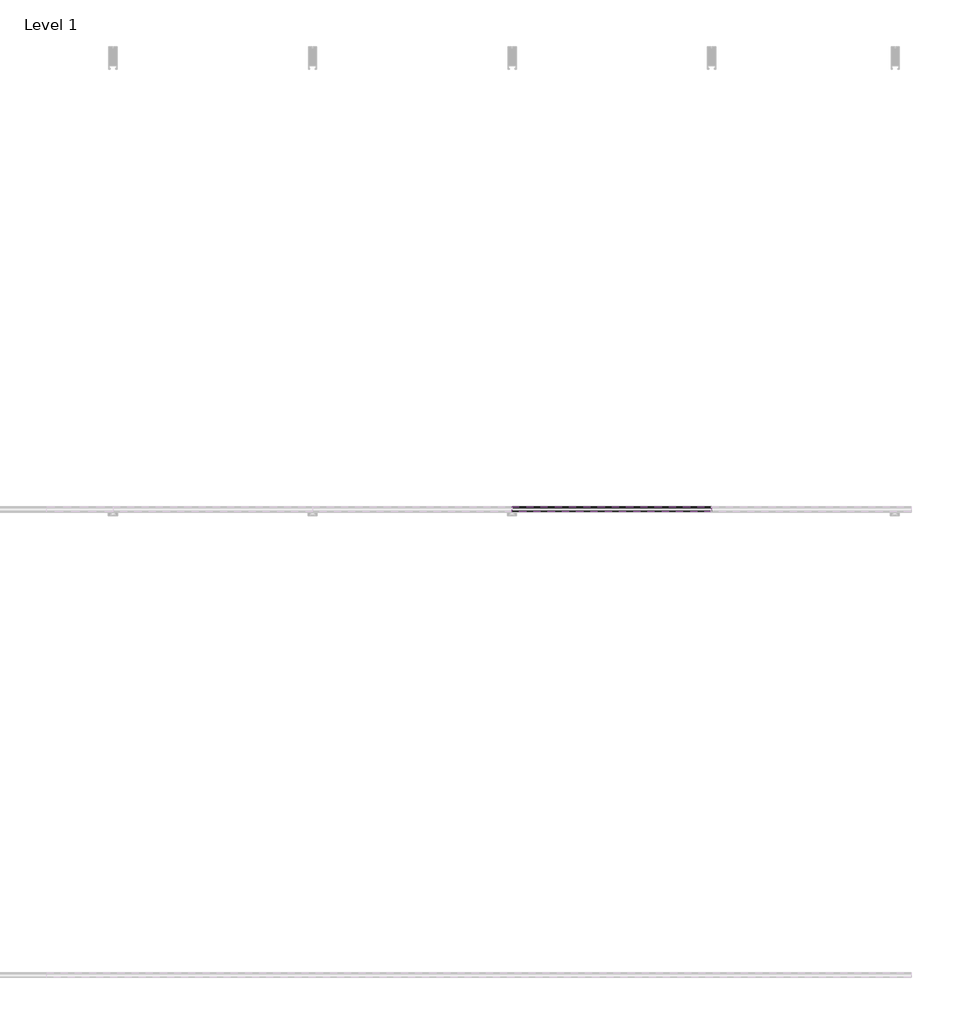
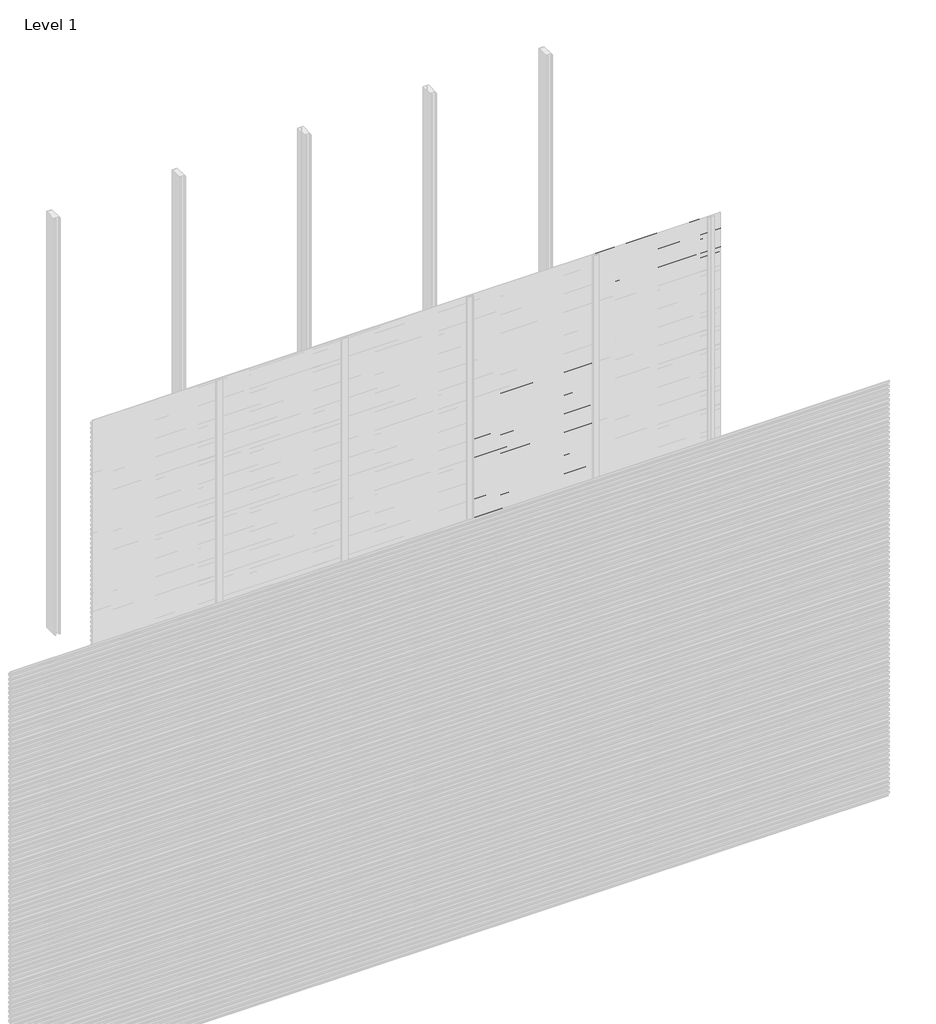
# One storey, part 58 of 96: 77 proxies.
"""IFC4 building model written with IfcOpenShell, lengths in millimetres."""

from ifc_helpers import new_model, si_unit, frame, origin, place, context, project, spatial, polyline, outline, extrude, element, save

model = new_model("IFC4")

# Units and contexts
model_context = context("Model", 3, world=origin())
ifc_project = project(units=[si_unit("LENGTHUNIT", "METRE", prefix="MILLI")], contexts=[model_context])

# Site, building, storey
site = spatial("IfcSite", under=ifc_project)
building = spatial("IfcBuilding", under=site)
storey = spatial("IfcBuildingStorey", under=building, Name="Level 1", Elevation=0.0)

# Proxies
placement = place(None, origin())
element("IfcBuildingElementProxy", 1, Name="Wall Sweeps", at=placement, inside=storey, context=model_context, shape_type="SweptSolid", body=[
    extrude(outline(polyline([(-23977.6, 2205.8655033), (-23977.6, 2191.5779188), (-23982.4114965, 2188.8), (-23982.4114965, 2190.0701706), (-23978.85, 2192.1264016), (-23978.85, 2205.1437382), (-23998.0, 2216.2000799), (-23998.0, 2231.1), (-23996.75, 2231.1), (-23996.75, 2216.9217609), (-23977.6, 2205.8655033)])), frame((4285.7142857, 0.0, 0.0), z_axis=(1.0, 0.0, 0.0), x_axis=(0.0, 1.0, 0.0)), (0.0, 0.0, 1.0), 857.1428571),
])
element("IfcBuildingElementProxy", 2, Name="Wall Sweeps", at=placement, inside=storey, context=model_context, shape_type="SweptSolid", body=[
    extrude(outline(polyline([(-23977.6, 2172.5655033), (-23977.6, 2158.2779188), (-23982.4114965, 2155.5), (-23982.4114965, 2156.7701706), (-23978.85, 2158.8264016), (-23978.85, 2171.8437382), (-23998.0, 2182.9000799), (-23998.0, 2197.8), (-23996.75, 2197.8), (-23996.75, 2183.6217609), (-23977.6, 2172.5655033)])), frame((4285.7142857, 0.0, 0.0), z_axis=(1.0, 0.0, 0.0), x_axis=(0.0, 1.0, 0.0)), (0.0, 0.0, 1.0), 857.1428571),
])
element("IfcBuildingElementProxy", 3, Name="Wall Sweeps", at=placement, inside=storey, context=model_context, shape_type="SweptSolid", body=[
    extrude(outline(polyline([(-23977.6, 2139.2655033), (-23977.6, 2124.9779188), (-23982.4114965, 2122.2), (-23982.4114965, 2123.4701706), (-23978.85, 2125.5264016), (-23978.85, 2138.5437382), (-23998.0, 2149.6000799), (-23998.0, 2164.5), (-23996.75, 2164.5), (-23996.75, 2150.3217609), (-23977.6, 2139.2655033)])), frame((4285.7142857, 0.0, 0.0), z_axis=(1.0, 0.0, 0.0), x_axis=(0.0, 1.0, 0.0)), (0.0, 0.0, 1.0), 857.1428571),
])
element("IfcBuildingElementProxy", 4, Name="Wall Sweeps", at=placement, inside=storey, context=model_context, shape_type="SweptSolid", body=[
    extrude(outline(polyline([(-23977.6, 2105.9655033), (-23977.6, 2091.6779188), (-23982.4114965, 2088.9), (-23982.4114965, 2090.1701706), (-23978.85, 2092.2264016), (-23978.85, 2105.2437382), (-23998.0, 2116.3000799), (-23998.0, 2131.2), (-23996.75, 2131.2), (-23996.75, 2117.0217609), (-23977.6, 2105.9655033)])), frame((4285.7142857, 0.0, 0.0), z_axis=(1.0, 0.0, 0.0), x_axis=(0.0, 1.0, 0.0)), (0.0, 0.0, 1.0), 857.1428571),
])
element("IfcBuildingElementProxy", 5, Name="Wall Sweeps", at=placement, inside=storey, context=model_context, shape_type="SweptSolid", body=[
    extrude(outline(polyline([(-23977.6, 2072.6655033), (-23977.6, 2058.3779188), (-23982.4114965, 2055.6), (-23982.4114965, 2056.8701706), (-23978.85, 2058.9264016), (-23978.85, 2071.9437382), (-23998.0, 2083.0000799), (-23998.0, 2097.9), (-23996.75, 2097.9), (-23996.75, 2083.7217609), (-23977.6, 2072.6655033)])), frame((4285.7142857, 0.0, 0.0), z_axis=(1.0, 0.0, 0.0), x_axis=(0.0, 1.0, 0.0)), (0.0, 0.0, 1.0), 857.1428571),
])
element("IfcBuildingElementProxy", 6, Name="Wall Sweeps", at=placement, inside=storey, context=model_context, shape_type="SweptSolid", body=[
    extrude(outline(polyline([(-23977.6, 2039.3655033), (-23977.6, 2025.0779188), (-23982.4114965, 2022.3), (-23982.4114965, 2023.5701706), (-23978.85, 2025.6264016), (-23978.85, 2038.6437382), (-23998.0, 2049.7000799), (-23998.0, 2064.6), (-23996.75, 2064.6), (-23996.75, 2050.4217609), (-23977.6, 2039.3655033)])), frame((4285.7142857, 0.0, 0.0), z_axis=(1.0, 0.0, 0.0), x_axis=(0.0, 1.0, 0.0)), (0.0, 0.0, 1.0), 857.1428571),
])
element("IfcBuildingElementProxy", 7, Name="Wall Sweeps", at=placement, inside=storey, context=model_context, shape_type="SweptSolid", body=[
    extrude(outline(polyline([(-23977.6, 2006.0655033), (-23977.6, 1991.7779188), (-23982.4114965, 1989.0), (-23982.4114965, 1990.2701706), (-23978.85, 1992.3264016), (-23978.85, 2005.3437382), (-23998.0, 2016.4000799), (-23998.0, 2031.3), (-23996.75, 2031.3), (-23996.75, 2017.1217609), (-23977.6, 2006.0655033)])), frame((4285.7142857, 0.0, 0.0), z_axis=(1.0, 0.0, 0.0), x_axis=(0.0, 1.0, 0.0)), (0.0, 0.0, 1.0), 857.1428571),
])
element("IfcBuildingElementProxy", 8, Name="Wall Sweeps", at=placement, inside=storey, context=model_context, shape_type="SweptSolid", body=[
    extrude(outline(polyline([(-23977.6, 1972.7655033), (-23977.6, 1958.4779188), (-23982.4114965, 1955.7), (-23982.4114965, 1956.9701706), (-23978.85, 1959.0264016), (-23978.85, 1972.0437382), (-23998.0, 1983.1000799), (-23998.0, 1998.0), (-23996.75, 1998.0), (-23996.75, 1983.8217609), (-23977.6, 1972.7655033)])), frame((4285.7142857, 0.0, 0.0), z_axis=(1.0, 0.0, 0.0), x_axis=(0.0, 1.0, 0.0)), (0.0, 0.0, 1.0), 857.1428571),
])
element("IfcBuildingElementProxy", 9, Name="Wall Sweeps", at=placement, inside=storey, context=model_context, shape_type="SweptSolid", body=[
    extrude(outline(polyline([(-23977.6, 1939.4655033), (-23977.6, 1925.1779188), (-23982.4114965, 1922.4), (-23982.4114965, 1923.6701706), (-23978.85, 1925.7264016), (-23978.85, 1938.7437382), (-23998.0, 1949.8000799), (-23998.0, 1964.7), (-23996.75, 1964.7), (-23996.75, 1950.5217609), (-23977.6, 1939.4655033)])), frame((4285.7142857, 0.0, 0.0), z_axis=(1.0, 0.0, 0.0), x_axis=(0.0, 1.0, 0.0)), (0.0, 0.0, 1.0), 857.1428571),
])
element("IfcBuildingElementProxy", 10, Name="Wall Sweeps", at=placement, inside=storey, context=model_context, shape_type="SweptSolid", body=[
    extrude(outline(polyline([(-23977.6, 1906.1655033), (-23977.6, 1891.8779188), (-23982.4114965, 1889.1), (-23982.4114965, 1890.3701706), (-23978.85, 1892.4264016), (-23978.85, 1905.4437382), (-23998.0, 1916.5000799), (-23998.0, 1931.4), (-23996.75, 1931.4), (-23996.75, 1917.2217609), (-23977.6, 1906.1655033)])), frame((4285.7142857, 0.0, 0.0), z_axis=(1.0, 0.0, 0.0), x_axis=(0.0, 1.0, 0.0)), (0.0, 0.0, 1.0), 857.1428571),
])
element("IfcBuildingElementProxy", 11, Name="Wall Sweeps", at=placement, inside=storey, context=model_context, shape_type="SweptSolid", body=[
    extrude(outline(polyline([(-23977.6, 1872.8655033), (-23977.6, 1858.5779188), (-23982.4114965, 1855.8), (-23982.4114965, 1857.0701706), (-23978.85, 1859.1264016), (-23978.85, 1872.1437382), (-23998.0, 1883.2000799), (-23998.0, 1898.1), (-23996.75, 1898.1), (-23996.75, 1883.9217609), (-23977.6, 1872.8655033)])), frame((4285.7142857, 0.0, 0.0), z_axis=(1.0, 0.0, 0.0), x_axis=(0.0, 1.0, 0.0)), (0.0, 0.0, 1.0), 857.1428571),
])
element("IfcBuildingElementProxy", 12, Name="Wall Sweeps", at=placement, inside=storey, context=model_context, shape_type="SweptSolid", body=[
    extrude(outline(polyline([(-23977.6, 1839.5655033), (-23977.6, 1825.2779188), (-23982.4114965, 1822.5), (-23982.4114965, 1823.7701706), (-23978.85, 1825.8264016), (-23978.85, 1838.8437382), (-23998.0, 1849.9000799), (-23998.0, 1864.8), (-23996.75, 1864.8), (-23996.75, 1850.6217609), (-23977.6, 1839.5655033)])), frame((4285.7142857, 0.0, 0.0), z_axis=(1.0, 0.0, 0.0), x_axis=(0.0, 1.0, 0.0)), (0.0, 0.0, 1.0), 857.1428571),
])
element("IfcBuildingElementProxy", 13, Name="Wall Sweeps", at=placement, inside=storey, context=model_context, shape_type="SweptSolid", body=[
    extrude(outline(polyline([(-23977.6, 1806.2655033), (-23977.6, 1791.9779188), (-23982.4114965, 1789.2), (-23982.4114965, 1790.4701706), (-23978.85, 1792.5264016), (-23978.85, 1805.5437382), (-23998.0, 1816.6000799), (-23998.0, 1831.5), (-23996.75, 1831.5), (-23996.75, 1817.3217609), (-23977.6, 1806.2655033)])), frame((4285.7142857, 0.0, 0.0), z_axis=(1.0, 0.0, 0.0), x_axis=(0.0, 1.0, 0.0)), (0.0, 0.0, 1.0), 857.1428571),
])
element("IfcBuildingElementProxy", 14, Name="Wall Sweeps", at=placement, inside=storey, context=model_context, shape_type="SweptSolid", body=[
    extrude(outline(polyline([(-23977.6, 1772.9655033), (-23977.6, 1758.6779188), (-23982.4114965, 1755.9), (-23982.4114965, 1757.1701706), (-23978.85, 1759.2264016), (-23978.85, 1772.2437382), (-23998.0, 1783.3000799), (-23998.0, 1798.2), (-23996.75, 1798.2), (-23996.75, 1784.0217609), (-23977.6, 1772.9655033)])), frame((4285.7142857, 0.0, 0.0), z_axis=(1.0, 0.0, 0.0), x_axis=(0.0, 1.0, 0.0)), (0.0, 0.0, 1.0), 857.1428571),
])
element("IfcBuildingElementProxy", 15, Name="Wall Sweeps", at=placement, inside=storey, context=model_context, shape_type="SweptSolid", body=[
    extrude(outline(polyline([(-23977.6, 1739.6655033), (-23977.6, 1725.3779188), (-23982.4114965, 1722.6), (-23982.4114965, 1723.8701706), (-23978.85, 1725.9264016), (-23978.85, 1738.9437382), (-23998.0, 1750.0000799), (-23998.0, 1764.9), (-23996.75, 1764.9), (-23996.75, 1750.7217609), (-23977.6, 1739.6655033)])), frame((4285.7142857, 0.0, 0.0), z_axis=(1.0, 0.0, 0.0), x_axis=(0.0, 1.0, 0.0)), (0.0, 0.0, 1.0), 857.1428571),
])
element("IfcBuildingElementProxy", 16, Name="Wall Sweeps", at=placement, inside=storey, context=model_context, shape_type="SweptSolid", body=[
    extrude(outline(polyline([(-23977.6, 1706.3655033), (-23977.6, 1692.0779188), (-23982.4114965, 1689.3), (-23982.4114965, 1690.5701706), (-23978.85, 1692.6264016), (-23978.85, 1705.6437382), (-23998.0, 1716.7000799), (-23998.0, 1731.6), (-23996.75, 1731.6), (-23996.75, 1717.4217609), (-23977.6, 1706.3655033)])), frame((4285.7142857, 0.0, 0.0), z_axis=(1.0, 0.0, 0.0), x_axis=(0.0, 1.0, 0.0)), (0.0, 0.0, 1.0), 857.1428571),
])
element("IfcBuildingElementProxy", 17, Name="Wall Sweeps", at=placement, inside=storey, context=model_context, shape_type="SweptSolid", body=[
    extrude(outline(polyline([(-23977.6, 1673.0655033), (-23977.6, 1658.7779188), (-23982.4114965, 1656.0), (-23982.4114965, 1657.2701706), (-23978.85, 1659.3264016), (-23978.85, 1672.3437382), (-23998.0, 1683.4000799), (-23998.0, 1698.3), (-23996.75, 1698.3), (-23996.75, 1684.1217609), (-23977.6, 1673.0655033)])), frame((4285.7142857, 0.0, 0.0), z_axis=(1.0, 0.0, 0.0), x_axis=(0.0, 1.0, 0.0)), (0.0, 0.0, 1.0), 857.1428571),
])
element("IfcBuildingElementProxy", 18, Name="Wall Sweeps", at=placement, inside=storey, context=model_context, shape_type="SweptSolid", body=[
    extrude(outline(polyline([(-23977.6, 1639.7655033), (-23977.6, 1625.4779188), (-23982.4114965, 1622.7), (-23982.4114965, 1623.9701706), (-23978.85, 1626.0264016), (-23978.85, 1639.0437382), (-23998.0, 1650.1000799), (-23998.0, 1665.0), (-23996.75, 1665.0), (-23996.75, 1650.8217609), (-23977.6, 1639.7655033)])), frame((4285.7142857, 0.0, 0.0), z_axis=(1.0, 0.0, 0.0), x_axis=(0.0, 1.0, 0.0)), (0.0, 0.0, 1.0), 857.1428571),
])
element("IfcBuildingElementProxy", 19, Name="Wall Sweeps", at=placement, inside=storey, context=model_context, shape_type="SweptSolid", body=[
    extrude(outline(polyline([(-23977.6, 1606.4655033), (-23977.6, 1592.1779188), (-23982.4114965, 1589.4), (-23982.4114965, 1590.6701706), (-23978.85, 1592.7264016), (-23978.85, 1605.7437382), (-23998.0, 1616.8000799), (-23998.0, 1631.7), (-23996.75, 1631.7), (-23996.75, 1617.5217609), (-23977.6, 1606.4655033)])), frame((4285.7142857, 0.0, 0.0), z_axis=(1.0, 0.0, 0.0), x_axis=(0.0, 1.0, 0.0)), (0.0, 0.0, 1.0), 857.1428571),
])
element("IfcBuildingElementProxy", 20, Name="Wall Sweeps", at=placement, inside=storey, context=model_context, shape_type="SweptSolid", body=[
    extrude(outline(polyline([(-23977.6, 1573.1655033), (-23977.6, 1558.8779188), (-23982.4114965, 1556.1), (-23982.4114965, 1557.3701706), (-23978.85, 1559.4264016), (-23978.85, 1572.4437382), (-23998.0, 1583.5000799), (-23998.0, 1598.4), (-23996.75, 1598.4), (-23996.75, 1584.2217609), (-23977.6, 1573.1655033)])), frame((4285.7142857, 0.0, 0.0), z_axis=(1.0, 0.0, 0.0), x_axis=(0.0, 1.0, 0.0)), (0.0, 0.0, 1.0), 857.1428571),
])
element("IfcBuildingElementProxy", 21, Name="Wall Sweeps", at=placement, inside=storey, context=model_context, shape_type="SweptSolid", body=[
    extrude(outline(polyline([(-23977.6, 1539.8655033), (-23977.6, 1525.5779188), (-23982.4114965, 1522.8), (-23982.4114965, 1524.0701706), (-23978.85, 1526.1264016), (-23978.85, 1539.1437382), (-23998.0, 1550.2000799), (-23998.0, 1565.1), (-23996.75, 1565.1), (-23996.75, 1550.9217609), (-23977.6, 1539.8655033)])), frame((4285.7142857, 0.0, 0.0), z_axis=(1.0, 0.0, 0.0), x_axis=(0.0, 1.0, 0.0)), (0.0, 0.0, 1.0), 857.1428571),
])
element("IfcBuildingElementProxy", 22, Name="Wall Sweeps", at=placement, inside=storey, context=model_context, shape_type="SweptSolid", body=[
    extrude(outline(polyline([(-23977.6, 1506.5655033), (-23977.6, 1492.2779188), (-23982.4114965, 1489.5), (-23982.4114965, 1490.7701706), (-23978.85, 1492.8264016), (-23978.85, 1505.8437382), (-23998.0, 1516.9000799), (-23998.0, 1531.8), (-23996.75, 1531.8), (-23996.75, 1517.6217609), (-23977.6, 1506.5655033)])), frame((4285.7142857, 0.0, 0.0), z_axis=(1.0, 0.0, 0.0), x_axis=(0.0, 1.0, 0.0)), (0.0, 0.0, 1.0), 857.1428571),
])
element("IfcBuildingElementProxy", 23, Name="Wall Sweeps", at=placement, inside=storey, context=model_context, shape_type="SweptSolid", body=[
    extrude(outline(polyline([(-23977.6, 1473.2655033), (-23977.6, 1458.9779188), (-23982.4114965, 1456.2), (-23982.4114965, 1457.4701706), (-23978.85, 1459.5264016), (-23978.85, 1472.5437382), (-23998.0, 1483.6000799), (-23998.0, 1498.5), (-23996.75, 1498.5), (-23996.75, 1484.3217609), (-23977.6, 1473.2655033)])), frame((4285.7142857, 0.0, 0.0), z_axis=(1.0, 0.0, 0.0), x_axis=(0.0, 1.0, 0.0)), (0.0, 0.0, 1.0), 857.1428571),
])
element("IfcBuildingElementProxy", 24, Name="Wall Sweeps", at=placement, inside=storey, context=model_context, shape_type="SweptSolid", body=[
    extrude(outline(polyline([(-23977.6, 1439.9655033), (-23977.6, 1425.6779188), (-23982.4114965, 1422.9), (-23982.4114965, 1424.1701706), (-23978.85, 1426.2264016), (-23978.85, 1439.2437382), (-23998.0, 1450.3000799), (-23998.0, 1465.2), (-23996.75, 1465.2), (-23996.75, 1451.0217609), (-23977.6, 1439.9655033)])), frame((4285.7142857, 0.0, 0.0), z_axis=(1.0, 0.0, 0.0), x_axis=(0.0, 1.0, 0.0)), (0.0, 0.0, 1.0), 857.1428571),
])
element("IfcBuildingElementProxy", 25, Name="Wall Sweeps", at=placement, inside=storey, context=model_context, shape_type="SweptSolid", body=[
    extrude(outline(polyline([(-23977.6, 1406.6655033), (-23977.6, 1392.3779188), (-23982.4114965, 1389.6), (-23982.4114965, 1390.8701706), (-23978.85, 1392.9264016), (-23978.85, 1405.9437382), (-23998.0, 1417.0000799), (-23998.0, 1431.9), (-23996.75, 1431.9), (-23996.75, 1417.7217609), (-23977.6, 1406.6655033)])), frame((4285.7142857, 0.0, 0.0), z_axis=(1.0, 0.0, 0.0), x_axis=(0.0, 1.0, 0.0)), (0.0, 0.0, 1.0), 857.1428571),
])
element("IfcBuildingElementProxy", 26, Name="Wall Sweeps", at=placement, inside=storey, context=model_context, shape_type="SweptSolid", body=[
    extrude(outline(polyline([(-23977.6, 1373.3655033), (-23977.6, 1359.0779188), (-23982.4114965, 1356.3), (-23982.4114965, 1357.5701706), (-23978.85, 1359.6264016), (-23978.85, 1372.6437382), (-23998.0, 1383.7000799), (-23998.0, 1398.6), (-23996.75, 1398.6), (-23996.75, 1384.4217609), (-23977.6, 1373.3655033)])), frame((4285.7142857, 0.0, 0.0), z_axis=(1.0, 0.0, 0.0), x_axis=(0.0, 1.0, 0.0)), (0.0, 0.0, 1.0), 857.1428571),
])
element("IfcBuildingElementProxy", 27, Name="Wall Sweeps", at=placement, inside=storey, context=model_context, shape_type="SweptSolid", body=[
    extrude(outline(polyline([(-23977.6, 1340.0655033), (-23977.6, 1325.7779188), (-23982.4114965, 1323.0), (-23982.4114965, 1324.2701706), (-23978.85, 1326.3264016), (-23978.85, 1339.3437382), (-23998.0, 1350.4000799), (-23998.0, 1365.3), (-23996.75, 1365.3), (-23996.75, 1351.1217609), (-23977.6, 1340.0655033)])), frame((4285.7142857, 0.0, 0.0), z_axis=(1.0, 0.0, 0.0), x_axis=(0.0, 1.0, 0.0)), (0.0, 0.0, 1.0), 857.1428571),
])
element("IfcBuildingElementProxy", 28, Name="Wall Sweeps", at=placement, inside=storey, context=model_context, shape_type="SweptSolid", body=[
    extrude(outline(polyline([(-23977.6, 1306.7655033), (-23977.6, 1292.4779188), (-23982.4114965, 1289.7), (-23982.4114965, 1290.9701706), (-23978.85, 1293.0264016), (-23978.85, 1306.0437382), (-23998.0, 1317.1000799), (-23998.0, 1332.0), (-23996.75, 1332.0), (-23996.75, 1317.8217609), (-23977.6, 1306.7655033)])), frame((4285.7142857, 0.0, 0.0), z_axis=(1.0, 0.0, 0.0), x_axis=(0.0, 1.0, 0.0)), (0.0, 0.0, 1.0), 857.1428571),
])
element("IfcBuildingElementProxy", 29, Name="Wall Sweeps", at=placement, inside=storey, context=model_context, shape_type="SweptSolid", body=[
    extrude(outline(polyline([(-23977.6, 1273.4655033), (-23977.6, 1259.1779188), (-23982.4114965, 1256.4), (-23982.4114965, 1257.6701706), (-23978.85, 1259.7264016), (-23978.85, 1272.7437382), (-23998.0, 1283.8000799), (-23998.0, 1298.7), (-23996.75, 1298.7), (-23996.75, 1284.5217609), (-23977.6, 1273.4655033)])), frame((4285.7142857, 0.0, 0.0), z_axis=(1.0, 0.0, 0.0), x_axis=(0.0, 1.0, 0.0)), (0.0, 0.0, 1.0), 857.1428571),
])
element("IfcBuildingElementProxy", 30, Name="Wall Sweeps", at=placement, inside=storey, context=model_context, shape_type="SweptSolid", body=[
    extrude(outline(polyline([(-23977.6, 1240.1655033), (-23977.6, 1225.8779188), (-23982.4114965, 1223.1), (-23982.4114965, 1224.3701706), (-23978.85, 1226.4264016), (-23978.85, 1239.4437382), (-23998.0, 1250.5000799), (-23998.0, 1265.4), (-23996.75, 1265.4), (-23996.75, 1251.2217609), (-23977.6, 1240.1655033)])), frame((4285.7142857, 0.0, 0.0), z_axis=(1.0, 0.0, 0.0), x_axis=(0.0, 1.0, 0.0)), (0.0, 0.0, 1.0), 857.1428571),
])
element("IfcBuildingElementProxy", 31, Name="Wall Sweeps", at=placement, inside=storey, context=model_context, shape_type="SweptSolid", body=[
    extrude(outline(polyline([(-23977.6, 1206.8655033), (-23977.6, 1192.5779188), (-23982.4114965, 1189.8), (-23982.4114965, 1191.0701706), (-23978.85, 1193.1264016), (-23978.85, 1206.1437382), (-23998.0, 1217.2000799), (-23998.0, 1232.1), (-23996.75, 1232.1), (-23996.75, 1217.9217609), (-23977.6, 1206.8655033)])), frame((4285.7142857, 0.0, 0.0), z_axis=(1.0, 0.0, 0.0), x_axis=(0.0, 1.0, 0.0)), (0.0, 0.0, 1.0), 857.1428571),
])
element("IfcBuildingElementProxy", 32, Name="Wall Sweeps", at=placement, inside=storey, context=model_context, shape_type="SweptSolid", body=[
    extrude(outline(polyline([(-23977.6, 1173.5655033), (-23977.6, 1159.2779188), (-23982.4114965, 1156.5), (-23982.4114965, 1157.7701706), (-23978.85, 1159.8264016), (-23978.85, 1172.8437382), (-23998.0, 1183.9000799), (-23998.0, 1198.8), (-23996.75, 1198.8), (-23996.75, 1184.6217609), (-23977.6, 1173.5655033)])), frame((4285.7142857, 0.0, 0.0), z_axis=(1.0, 0.0, 0.0), x_axis=(0.0, 1.0, 0.0)), (0.0, 0.0, 1.0), 857.1428571),
])
element("IfcBuildingElementProxy", 33, Name="Wall Sweeps", at=placement, inside=storey, context=model_context, shape_type="SweptSolid", body=[
    extrude(outline(polyline([(-23977.6, 1140.2655033), (-23977.6, 1125.9779188), (-23982.4114965, 1123.2), (-23982.4114965, 1124.4701706), (-23978.85, 1126.5264016), (-23978.85, 1139.5437382), (-23998.0, 1150.6000799), (-23998.0, 1165.5), (-23996.75, 1165.5), (-23996.75, 1151.3217609), (-23977.6, 1140.2655033)])), frame((4285.7142857, 0.0, 0.0), z_axis=(1.0, 0.0, 0.0), x_axis=(0.0, 1.0, 0.0)), (0.0, 0.0, 1.0), 857.1428571),
])
element("IfcBuildingElementProxy", 34, Name="Wall Sweeps", at=placement, inside=storey, context=model_context, shape_type="SweptSolid", body=[
    extrude(outline(polyline([(-23977.6, 1106.9655033), (-23977.6, 1092.6779188), (-23982.4114965, 1089.9), (-23982.4114965, 1091.1701706), (-23978.85, 1093.2264016), (-23978.85, 1106.2437382), (-23998.0, 1117.3000799), (-23998.0, 1132.2), (-23996.75, 1132.2), (-23996.75, 1118.0217609), (-23977.6, 1106.9655033)])), frame((4285.7142857, 0.0, 0.0), z_axis=(1.0, 0.0, 0.0), x_axis=(0.0, 1.0, 0.0)), (0.0, 0.0, 1.0), 857.1428571),
])
element("IfcBuildingElementProxy", 35, Name="Wall Sweeps", at=placement, inside=storey, context=model_context, shape_type="SweptSolid", body=[
    extrude(outline(polyline([(-23977.6, 1073.6655033), (-23977.6, 1059.3779188), (-23982.4114965, 1056.6), (-23982.4114965, 1057.8701706), (-23978.85, 1059.9264016), (-23978.85, 1072.9437382), (-23998.0, 1084.0000799), (-23998.0, 1098.9), (-23996.75, 1098.9), (-23996.75, 1084.7217609), (-23977.6, 1073.6655033)])), frame((4285.7142857, 0.0, 0.0), z_axis=(1.0, 0.0, 0.0), x_axis=(0.0, 1.0, 0.0)), (0.0, 0.0, 1.0), 857.1428571),
])
element("IfcBuildingElementProxy", 36, Name="Wall Sweeps", at=placement, inside=storey, context=model_context, shape_type="SweptSolid", body=[
    extrude(outline(polyline([(-23977.6, 1040.3655033), (-23977.6, 1026.0779188), (-23982.4114965, 1023.3), (-23982.4114965, 1024.5701706), (-23978.85, 1026.6264016), (-23978.85, 1039.6437382), (-23998.0, 1050.7000799), (-23998.0, 1065.6), (-23996.75, 1065.6), (-23996.75, 1051.4217609), (-23977.6, 1040.3655033)])), frame((4285.7142857, 0.0, 0.0), z_axis=(1.0, 0.0, 0.0), x_axis=(0.0, 1.0, 0.0)), (0.0, 0.0, 1.0), 857.1428571),
])
element("IfcBuildingElementProxy", 37, Name="Wall Sweeps", at=placement, inside=storey, context=model_context, shape_type="SweptSolid", body=[
    extrude(outline(polyline([(-23977.6, 1007.0655033), (-23977.6, 992.7779188), (-23982.4114965, 990.0), (-23982.4114965, 991.2701706), (-23978.85, 993.3264016), (-23978.85, 1006.3437382), (-23998.0, 1017.4000799), (-23998.0, 1032.3), (-23996.75, 1032.3), (-23996.75, 1018.1217609), (-23977.6, 1007.0655033)])), frame((4285.7142857, 0.0, 0.0), z_axis=(1.0, 0.0, 0.0), x_axis=(0.0, 1.0, 0.0)), (0.0, 0.0, 1.0), 857.1428571),
])
element("IfcBuildingElementProxy", 38, Name="Wall Sweeps", at=placement, inside=storey, context=model_context, shape_type="SweptSolid", body=[
    extrude(outline(polyline([(-23977.6, 973.7655033), (-23977.6, 959.4779188), (-23982.4114965, 956.7), (-23982.4114965, 957.9701706), (-23978.85, 960.0264016), (-23978.85, 973.0437382), (-23998.0, 984.1000799), (-23998.0, 999.0), (-23996.75, 999.0), (-23996.75, 984.8217609), (-23977.6, 973.7655033)])), frame((4285.7142857, 0.0, 0.0), z_axis=(1.0, 0.0, 0.0), x_axis=(0.0, 1.0, 0.0)), (0.0, 0.0, 1.0), 857.1428571),
])
element("IfcBuildingElementProxy", 39, Name="Wall Sweeps", at=placement, inside=storey, context=model_context, shape_type="SweptSolid", body=[
    extrude(outline(polyline([(-23977.6, 940.4655033), (-23977.6, 926.1779188), (-23982.4114965, 923.4), (-23982.4114965, 924.6701706), (-23978.85, 926.7264016), (-23978.85, 939.7437382), (-23998.0, 950.8000799), (-23998.0, 965.7), (-23996.75, 965.7), (-23996.75, 951.5217609), (-23977.6, 940.4655033)])), frame((4285.7142857, 0.0, 0.0), z_axis=(1.0, 0.0, 0.0), x_axis=(0.0, 1.0, 0.0)), (0.0, 0.0, 1.0), 857.1428571),
])
element("IfcBuildingElementProxy", 40, Name="Wall Sweeps", at=placement, inside=storey, context=model_context, shape_type="SweptSolid", body=[
    extrude(outline(polyline([(-23977.6, 907.1655033), (-23977.6, 892.8779188), (-23982.4114965, 890.1), (-23982.4114965, 891.3701706), (-23978.85, 893.4264016), (-23978.85, 906.4437382), (-23998.0, 917.5000799), (-23998.0, 932.4), (-23996.75, 932.4), (-23996.75, 918.2217609), (-23977.6, 907.1655033)])), frame((4285.7142857, 0.0, 0.0), z_axis=(1.0, 0.0, 0.0), x_axis=(0.0, 1.0, 0.0)), (0.0, 0.0, 1.0), 857.1428571),
])
element("IfcBuildingElementProxy", 41, Name="Wall Sweeps", at=placement, inside=storey, context=model_context, shape_type="SweptSolid", body=[
    extrude(outline(polyline([(-23977.6, 873.8655033), (-23977.6, 859.5779188), (-23982.4114965, 856.8), (-23982.4114965, 858.0701706), (-23978.85, 860.1264016), (-23978.85, 873.1437382), (-23998.0, 884.2000799), (-23998.0, 899.1), (-23996.75, 899.1), (-23996.75, 884.9217609), (-23977.6, 873.8655033)])), frame((4285.7142857, 0.0, 0.0), z_axis=(1.0, 0.0, 0.0), x_axis=(0.0, 1.0, 0.0)), (0.0, 0.0, 1.0), 857.1428571),
])
element("IfcBuildingElementProxy", 42, Name="Wall Sweeps", at=placement, inside=storey, context=model_context, shape_type="SweptSolid", body=[
    extrude(outline(polyline([(-23977.6, 840.5655033), (-23977.6, 826.2779188), (-23982.4114965, 823.5), (-23982.4114965, 824.7701706), (-23978.85, 826.8264016), (-23978.85, 839.8437382), (-23998.0, 850.9000799), (-23998.0, 865.8), (-23996.75, 865.8), (-23996.75, 851.6217609), (-23977.6, 840.5655033)])), frame((4285.7142857, 0.0, 0.0), z_axis=(1.0, 0.0, 0.0), x_axis=(0.0, 1.0, 0.0)), (0.0, 0.0, 1.0), 857.1428571),
])
element("IfcBuildingElementProxy", 43, Name="Wall Sweeps", at=placement, inside=storey, context=model_context, shape_type="SweptSolid", body=[
    extrude(outline(polyline([(-23977.6, 807.2655033), (-23977.6, 792.9779188), (-23982.4114965, 790.2), (-23982.4114965, 791.4701706), (-23978.85, 793.5264016), (-23978.85, 806.5437382), (-23998.0, 817.6000799), (-23998.0, 832.5), (-23996.75, 832.5), (-23996.75, 818.3217609), (-23977.6, 807.2655033)])), frame((4285.7142857, 0.0, 0.0), z_axis=(1.0, 0.0, 0.0), x_axis=(0.0, 1.0, 0.0)), (0.0, 0.0, 1.0), 857.1428571),
])
element("IfcBuildingElementProxy", 44, Name="Wall Sweeps", at=placement, inside=storey, context=model_context, shape_type="SweptSolid", body=[
    extrude(outline(polyline([(-23977.6, 773.9655033), (-23977.6, 759.6779188), (-23982.4114965, 756.9), (-23982.4114965, 758.1701706), (-23978.85, 760.2264016), (-23978.85, 773.2437382), (-23998.0, 784.3000799), (-23998.0, 799.2), (-23996.75, 799.2), (-23996.75, 785.0217609), (-23977.6, 773.9655033)])), frame((4285.7142857, 0.0, 0.0), z_axis=(1.0, 0.0, 0.0), x_axis=(0.0, 1.0, 0.0)), (0.0, 0.0, 1.0), 857.1428571),
])
element("IfcBuildingElementProxy", 45, Name="Wall Sweeps", at=placement, inside=storey, context=model_context, shape_type="SweptSolid", body=[
    extrude(outline(polyline([(-23977.6, 740.6655033), (-23977.6, 726.3779188), (-23982.4114965, 723.6), (-23982.4114965, 724.8701706), (-23978.85, 726.9264016), (-23978.85, 739.9437382), (-23998.0, 751.0000799), (-23998.0, 765.9), (-23996.75, 765.9), (-23996.75, 751.7217609), (-23977.6, 740.6655033)])), frame((4285.7142857, 0.0, 0.0), z_axis=(1.0, 0.0, 0.0), x_axis=(0.0, 1.0, 0.0)), (0.0, 0.0, 1.0), 857.1428571),
])
element("IfcBuildingElementProxy", 46, Name="Wall Sweeps", at=placement, inside=storey, context=model_context, shape_type="SweptSolid", body=[
    extrude(outline(polyline([(-23977.6, 707.3655033), (-23977.6, 693.0779188), (-23982.4114965, 690.3), (-23982.4114965, 691.5701706), (-23978.85, 693.6264016), (-23978.85, 706.6437382), (-23998.0, 717.7000799), (-23998.0, 732.6), (-23996.75, 732.6), (-23996.75, 718.4217609), (-23977.6, 707.3655033)])), frame((4285.7142857, 0.0, 0.0), z_axis=(1.0, 0.0, 0.0), x_axis=(0.0, 1.0, 0.0)), (0.0, 0.0, 1.0), 857.1428571),
])
element("IfcBuildingElementProxy", 47, Name="Wall Sweeps", at=placement, inside=storey, context=model_context, shape_type="SweptSolid", body=[
    extrude(outline(polyline([(-23977.6, 674.0655033), (-23977.6, 659.7779188), (-23982.4114965, 657.0), (-23982.4114965, 658.2701706), (-23978.85, 660.3264016), (-23978.85, 673.3437382), (-23998.0, 684.4000799), (-23998.0, 699.3), (-23996.75, 699.3), (-23996.75, 685.1217609), (-23977.6, 674.0655033)])), frame((4285.7142857, 0.0, 0.0), z_axis=(1.0, 0.0, 0.0), x_axis=(0.0, 1.0, 0.0)), (0.0, 0.0, 1.0), 857.1428571),
])
element("IfcBuildingElementProxy", 48, Name="Wall Sweeps", at=placement, inside=storey, context=model_context, shape_type="SweptSolid", body=[
    extrude(outline(polyline([(-23977.6, 640.7655033), (-23977.6, 626.4779188), (-23982.4114965, 623.7), (-23982.4114965, 624.9701706), (-23978.85, 627.0264016), (-23978.85, 640.0437382), (-23998.0, 651.1000799), (-23998.0, 666.0), (-23996.75, 666.0), (-23996.75, 651.8217609), (-23977.6, 640.7655033)])), frame((4285.7142857, 0.0, 0.0), z_axis=(1.0, 0.0, 0.0), x_axis=(0.0, 1.0, 0.0)), (0.0, 0.0, 1.0), 857.1428571),
])
element("IfcBuildingElementProxy", 49, Name="Wall Sweeps", at=placement, inside=storey, context=model_context, shape_type="SweptSolid", body=[
    extrude(outline(polyline([(-23977.6, 607.4655033), (-23977.6, 593.1779188), (-23982.4114965, 590.4), (-23982.4114965, 591.6701706), (-23978.85, 593.7264016), (-23978.85, 606.7437382), (-23998.0, 617.8000799), (-23998.0, 632.7), (-23996.75, 632.7), (-23996.75, 618.5217609), (-23977.6, 607.4655033)])), frame((4285.7142857, 0.0, 0.0), z_axis=(1.0, 0.0, 0.0), x_axis=(0.0, 1.0, 0.0)), (0.0, 0.0, 1.0), 857.1428571),
])
element("IfcBuildingElementProxy", 50, Name="Wall Sweeps", at=placement, inside=storey, context=model_context, shape_type="SweptSolid", body=[
    extrude(outline(polyline([(-23977.6, 574.1655033), (-23977.6, 559.8779188), (-23982.4114965, 557.1), (-23982.4114965, 558.3701706), (-23978.85, 560.4264016), (-23978.85, 573.4437382), (-23998.0, 584.5000799), (-23998.0, 599.4), (-23996.75, 599.4), (-23996.75, 585.2217609), (-23977.6, 574.1655033)])), frame((4285.7142857, 0.0, 0.0), z_axis=(1.0, 0.0, 0.0), x_axis=(0.0, 1.0, 0.0)), (0.0, 0.0, 1.0), 857.1428571),
])
element("IfcBuildingElementProxy", 51, Name="Wall Sweeps", at=placement, inside=storey, context=model_context, shape_type="SweptSolid", body=[
    extrude(outline(polyline([(-23977.6, 540.8655033), (-23977.6, 526.5779188), (-23982.4114965, 523.8), (-23982.4114965, 525.0701706), (-23978.85, 527.1264016), (-23978.85, 540.1437382), (-23998.0, 551.2000799), (-23998.0, 566.1), (-23996.75, 566.1), (-23996.75, 551.9217609), (-23977.6, 540.8655033)])), frame((4285.7142857, 0.0, 0.0), z_axis=(1.0, 0.0, 0.0), x_axis=(0.0, 1.0, 0.0)), (0.0, 0.0, 1.0), 857.1428571),
])
element("IfcBuildingElementProxy", 52, Name="Wall Sweeps", at=placement, inside=storey, context=model_context, shape_type="SweptSolid", body=[
    extrude(outline(polyline([(-23977.6, 507.5655033), (-23977.6, 493.2779188), (-23982.4114965, 490.5), (-23982.4114965, 491.7701706), (-23978.85, 493.8264016), (-23978.85, 506.8437382), (-23998.0, 517.9000799), (-23998.0, 532.8), (-23996.75, 532.8), (-23996.75, 518.6217609), (-23977.6, 507.5655033)])), frame((4285.7142857, 0.0, 0.0), z_axis=(1.0, 0.0, 0.0), x_axis=(0.0, 1.0, 0.0)), (0.0, 0.0, 1.0), 857.1428571),
])
element("IfcBuildingElementProxy", 53, Name="Wall Sweeps", at=placement, inside=storey, context=model_context, shape_type="SweptSolid", body=[
    extrude(outline(polyline([(-23977.6, 474.2655033), (-23977.6, 459.9779188), (-23982.4114965, 457.2), (-23982.4114965, 458.4701706), (-23978.85, 460.5264016), (-23978.85, 473.5437382), (-23998.0, 484.6000799), (-23998.0, 499.5), (-23996.75, 499.5), (-23996.75, 485.3217609), (-23977.6, 474.2655033)])), frame((4285.7142857, 0.0, 0.0), z_axis=(1.0, 0.0, 0.0), x_axis=(0.0, 1.0, 0.0)), (0.0, 0.0, 1.0), 857.1428571),
])
element("IfcBuildingElementProxy", 54, Name="Wall Sweeps", at=placement, inside=storey, context=model_context, shape_type="SweptSolid", body=[
    extrude(outline(polyline([(-23977.6, 440.9655033), (-23977.6, 426.6779188), (-23982.4114965, 423.9), (-23982.4114965, 425.1701706), (-23978.85, 427.2264016), (-23978.85, 440.2437382), (-23998.0, 451.3000799), (-23998.0, 466.2), (-23996.75, 466.2), (-23996.75, 452.0217609), (-23977.6, 440.9655033)])), frame((4285.7142857, 0.0, 0.0), z_axis=(1.0, 0.0, 0.0), x_axis=(0.0, 1.0, 0.0)), (0.0, 0.0, 1.0), 857.1428571),
])
element("IfcBuildingElementProxy", 55, Name="Wall Sweeps", at=placement, inside=storey, context=model_context, shape_type="SweptSolid", body=[
    extrude(outline(polyline([(-23977.6, 407.6655033), (-23977.6, 393.3779188), (-23982.4114965, 390.6), (-23982.4114965, 391.8701706), (-23978.85, 393.9264016), (-23978.85, 406.9437382), (-23998.0, 418.0000799), (-23998.0, 432.9), (-23996.75, 432.9), (-23996.75, 418.7217609), (-23977.6, 407.6655033)])), frame((4285.7142857, 0.0, 0.0), z_axis=(1.0, 0.0, 0.0), x_axis=(0.0, 1.0, 0.0)), (0.0, 0.0, 1.0), 857.1428571),
])
element("IfcBuildingElementProxy", 56, Name="Wall Sweeps", at=placement, inside=storey, context=model_context, shape_type="SweptSolid", body=[
    extrude(outline(polyline([(-23977.6, 374.3655033), (-23977.6, 360.0779188), (-23982.4114965, 357.3), (-23982.4114965, 358.5701706), (-23978.85, 360.6264016), (-23978.85, 373.6437382), (-23998.0, 384.7000799), (-23998.0, 399.6), (-23996.75, 399.6), (-23996.75, 385.4217609), (-23977.6, 374.3655033)])), frame((4285.7142857, 0.0, 0.0), z_axis=(1.0, 0.0, 0.0), x_axis=(0.0, 1.0, 0.0)), (0.0, 0.0, 1.0), 857.1428571),
])
element("IfcBuildingElementProxy", 57, Name="Wall Sweeps", at=placement, inside=storey, context=model_context, shape_type="SweptSolid", body=[
    extrude(outline(polyline([(-23977.6, 341.0655033), (-23977.6, 326.7779188), (-23982.4114965, 324.0), (-23982.4114965, 325.2701706), (-23978.85, 327.3264016), (-23978.85, 340.3437382), (-23998.0, 351.4000799), (-23998.0, 366.3), (-23996.75, 366.3), (-23996.75, 352.1217609), (-23977.6, 341.0655033)])), frame((4285.7142857, 0.0, 0.0), z_axis=(1.0, 0.0, 0.0), x_axis=(0.0, 1.0, 0.0)), (0.0, 0.0, 1.0), 857.1428571),
])
element("IfcBuildingElementProxy", 58, Name="Wall Sweeps", at=placement, inside=storey, context=model_context, shape_type="SweptSolid", body=[
    extrude(outline(polyline([(-23977.6, 307.7655033), (-23977.6, 293.4779188), (-23982.4114965, 290.7), (-23982.4114965, 291.9701706), (-23978.85, 294.0264016), (-23978.85, 307.0437382), (-23998.0, 318.1000799), (-23998.0, 333.0), (-23996.75, 333.0), (-23996.75, 318.8217609), (-23977.6, 307.7655033)])), frame((4285.7142857, 0.0, 0.0), z_axis=(1.0, 0.0, 0.0), x_axis=(0.0, 1.0, 0.0)), (0.0, 0.0, 1.0), 857.1428571),
])
element("IfcBuildingElementProxy", 59, Name="Wall Sweeps", at=placement, inside=storey, context=model_context, shape_type="SweptSolid", body=[
    extrude(outline(polyline([(-23977.6, 274.4655033), (-23977.6, 260.1779188), (-23982.4114965, 257.4), (-23982.4114965, 258.6701706), (-23978.85, 260.7264016), (-23978.85, 273.7437382), (-23998.0, 284.8000799), (-23998.0, 299.7), (-23996.75, 299.7), (-23996.75, 285.5217609), (-23977.6, 274.4655033)])), frame((4285.7142857, 0.0, 0.0), z_axis=(1.0, 0.0, 0.0), x_axis=(0.0, 1.0, 0.0)), (0.0, 0.0, 1.0), 857.1428571),
])
element("IfcBuildingElementProxy", 60, Name="Wall Sweeps", at=placement, inside=storey, context=model_context, shape_type="SweptSolid", body=[
    extrude(outline(polyline([(-23977.6, 241.1655033), (-23977.6, 226.8779188), (-23982.4114965, 224.1), (-23982.4114965, 225.3701706), (-23978.85, 227.4264016), (-23978.85, 240.4437382), (-23998.0, 251.5000799), (-23998.0, 266.4), (-23996.75, 266.4), (-23996.75, 252.2217609), (-23977.6, 241.1655033)])), frame((4285.7142857, 0.0, 0.0), z_axis=(1.0, 0.0, 0.0), x_axis=(0.0, 1.0, 0.0)), (0.0, 0.0, 1.0), 857.1428571),
])
element("IfcBuildingElementProxy", 61, Name="Wall Sweeps", at=placement, inside=storey, context=model_context, shape_type="SweptSolid", body=[
    extrude(outline(polyline([(-23977.6, 207.8655033), (-23977.6, 193.5779188), (-23982.4114965, 190.8), (-23982.4114965, 192.0701706), (-23978.85, 194.1264016), (-23978.85, 207.1437382), (-23998.0, 218.2000799), (-23998.0, 233.1), (-23996.75, 233.1), (-23996.75, 218.9217609), (-23977.6, 207.8655033)])), frame((4285.7142857, 0.0, 0.0), z_axis=(1.0, 0.0, 0.0), x_axis=(0.0, 1.0, 0.0)), (0.0, 0.0, 1.0), 857.1428571),
])
element("IfcBuildingElementProxy", 62, Name="Wall Sweeps", at=placement, inside=storey, context=model_context, shape_type="SweptSolid", body=[
    extrude(outline(polyline([(-23977.6, 174.5655033), (-23977.6, 160.2779188), (-23982.4114965, 157.5), (-23982.4114965, 158.7701706), (-23978.85, 160.8264016), (-23978.85, 173.8437382), (-23998.0, 184.9000799), (-23998.0, 199.8), (-23996.75, 199.8), (-23996.75, 185.6217609), (-23977.6, 174.5655033)])), frame((4285.7142857, 0.0, 0.0), z_axis=(1.0, 0.0, 0.0), x_axis=(0.0, 1.0, 0.0)), (0.0, 0.0, 1.0), 857.1428571),
])
element("IfcBuildingElementProxy", 63, Name="Wall Sweeps", at=placement, inside=storey, context=model_context, shape_type="SweptSolid", body=[
    extrude(outline(polyline([(-23977.6, 141.2655033), (-23977.6, 126.9779188), (-23982.4114965, 124.2), (-23982.4114965, 125.4701706), (-23978.85, 127.5264016), (-23978.85, 140.5437382), (-23998.0, 151.6000799), (-23998.0, 166.5), (-23996.75, 166.5), (-23996.75, 152.3217609), (-23977.6, 141.2655033)])), frame((4285.7142857, 0.0, 0.0), z_axis=(1.0, 0.0, 0.0), x_axis=(0.0, 1.0, 0.0)), (0.0, 0.0, 1.0), 857.1428571),
])
element("IfcBuildingElementProxy", 64, Name="Wall Sweeps", at=placement, inside=storey, context=model_context, shape_type="SweptSolid", body=[
    extrude(outline(polyline([(-23977.6, 107.9655033), (-23977.6, 93.6779188), (-23982.4114965, 90.9), (-23982.4114965, 92.1701706), (-23978.85, 94.2264016), (-23978.85, 107.2437382), (-23998.0, 118.3000799), (-23998.0, 133.2), (-23996.75, 133.2), (-23996.75, 119.0217609), (-23977.6, 107.9655033)])), frame((4285.7142857, 0.0, 0.0), z_axis=(1.0, 0.0, 0.0), x_axis=(0.0, 1.0, 0.0)), (0.0, 0.0, 1.0), 857.1428571),
])
element("IfcBuildingElementProxy", 65, Name="Wall Sweeps", at=placement, inside=storey, context=model_context, shape_type="SweptSolid", body=[
    extrude(outline(polyline([(-23977.6, 74.6655033), (-23977.6, 60.3779188), (-23982.4114965, 57.6), (-23982.4114965, 58.8701706), (-23978.85, 60.9264016), (-23978.85, 73.9437382), (-23998.0, 85.0000799), (-23998.0, 99.9), (-23996.75, 99.9), (-23996.75, 85.7217609), (-23977.6, 74.6655033)])), frame((4285.7142857, 0.0, 0.0), z_axis=(1.0, 0.0, 0.0), x_axis=(0.0, 1.0, 0.0)), (0.0, 0.0, 1.0), 857.1428571),
])
element("IfcBuildingElementProxy", 66, Name="Wall Sweeps", at=placement, inside=storey, context=model_context, shape_type="SweptSolid", body=[
    extrude(outline(polyline([(-23977.6, 41.3655033), (-23977.6, 27.0779188), (-23982.4114965, 24.3), (-23982.4114965, 25.5701706), (-23978.85, 27.6264016), (-23978.85, 40.6437382), (-23998.0, 51.7000799), (-23998.0, 66.6), (-23996.75, 66.6), (-23996.75, 52.4217609), (-23977.6, 41.3655033)])), frame((4285.7142857, 0.0, 0.0), z_axis=(1.0, 0.0, 0.0), x_axis=(0.0, 1.0, 0.0)), (0.0, 0.0, 1.0), 857.1428571),
])
element("IfcBuildingElementProxy", 67, Name="Wall Sweeps", at=placement, inside=storey, context=model_context, shape_type="SweptSolid", body=[
    extrude(outline(polyline([(-23977.6, 8.0655033), (-23977.6, -6.2220812), (-23982.4114965, -9.0), (-23982.4114965, -7.7298294), (-23978.85, -5.6735984), (-23978.85, 7.3437382), (-23998.0, 18.4000799), (-23998.0, 33.3), (-23996.75, 33.3), (-23996.75, 19.1217609), (-23977.6, 8.0655033)])), frame((4285.7142857, 0.0, 0.0), z_axis=(1.0, 0.0, 0.0), x_axis=(0.0, 1.0, 0.0)), (0.0, 0.0, 1.0), 857.1428571),
])
element("IfcBuildingElementProxy", 68, Name="Wall Sweeps", at=placement, inside=storey, context=model_context, shape_type="SweptSolid", body=[
    extrude(outline(polyline([(-23977.6, 2971.7655033), (-23977.6, 2957.4779188), (-23982.4114965, 2954.7), (-23982.4114965, 2955.9701706), (-23978.85, 2958.0264016), (-23978.85, 2971.0437382), (-23998.0, 2982.1000799), (-23998.0, 2997.0), (-23996.75, 2997.0), (-23996.75, 2982.8217609), (-23977.6, 2971.7655033)])), frame((5142.8571429, 0.0, 0.0), z_axis=(1.0, 0.0, 0.0), x_axis=(0.0, 1.0, 0.0)), (0.0, 0.0, 1.0), 857.1428571),
])
element("IfcBuildingElementProxy", 69, Name="Wall Sweeps", at=placement, inside=storey, context=model_context, shape_type="SweptSolid", body=[
    extrude(outline(polyline([(-23977.6, 2938.4655033), (-23977.6, 2924.1779188), (-23982.4114965, 2921.4), (-23982.4114965, 2922.6701706), (-23978.85, 2924.7264016), (-23978.85, 2937.7437382), (-23998.0, 2948.8000799), (-23998.0, 2963.7), (-23996.75, 2963.7), (-23996.75, 2949.5217609), (-23977.6, 2938.4655033)])), frame((5142.8571429, 0.0, 0.0), z_axis=(1.0, 0.0, 0.0), x_axis=(0.0, 1.0, 0.0)), (0.0, 0.0, 1.0), 857.1428571),
])
element("IfcBuildingElementProxy", 70, Name="Wall Sweeps", at=placement, inside=storey, context=model_context, shape_type="SweptSolid", body=[
    extrude(outline(polyline([(-23977.6, 2905.1655033), (-23977.6, 2890.8779188), (-23982.4114965, 2888.1), (-23982.4114965, 2889.3701706), (-23978.85, 2891.4264016), (-23978.85, 2904.4437382), (-23998.0, 2915.5000799), (-23998.0, 2930.4), (-23996.75, 2930.4), (-23996.75, 2916.2217609), (-23977.6, 2905.1655033)])), frame((5142.8571429, 0.0, 0.0), z_axis=(1.0, 0.0, 0.0), x_axis=(0.0, 1.0, 0.0)), (0.0, 0.0, 1.0), 857.1428571),
])
element("IfcBuildingElementProxy", 71, Name="Wall Sweeps", at=placement, inside=storey, context=model_context, shape_type="SweptSolid", body=[
    extrude(outline(polyline([(-23977.6, 2871.8655033), (-23977.6, 2857.5779188), (-23982.4114965, 2854.8), (-23982.4114965, 2856.0701706), (-23978.85, 2858.1264016), (-23978.85, 2871.1437382), (-23998.0, 2882.2000799), (-23998.0, 2897.1), (-23996.75, 2897.1), (-23996.75, 2882.9217609), (-23977.6, 2871.8655033)])), frame((5142.8571429, 0.0, 0.0), z_axis=(1.0, 0.0, 0.0), x_axis=(0.0, 1.0, 0.0)), (0.0, 0.0, 1.0), 857.1428571),
])
element("IfcBuildingElementProxy", 72, Name="Wall Sweeps", at=placement, inside=storey, context=model_context, shape_type="SweptSolid", body=[
    extrude(outline(polyline([(-23977.6, 2838.5655033), (-23977.6, 2824.2779188), (-23982.4114965, 2821.5), (-23982.4114965, 2822.7701706), (-23978.85, 2824.8264016), (-23978.85, 2837.8437382), (-23998.0, 2848.9000799), (-23998.0, 2863.8), (-23996.75, 2863.8), (-23996.75, 2849.6217609), (-23977.6, 2838.5655033)])), frame((5142.8571429, 0.0, 0.0), z_axis=(1.0, 0.0, 0.0), x_axis=(0.0, 1.0, 0.0)), (0.0, 0.0, 1.0), 857.1428571),
])
element("IfcBuildingElementProxy", 73, Name="Wall Sweeps", at=placement, inside=storey, context=model_context, shape_type="SweptSolid", body=[
    extrude(outline(polyline([(-23977.6, 2805.2655033), (-23977.6, 2790.9779188), (-23982.4114965, 2788.2), (-23982.4114965, 2789.4701706), (-23978.85, 2791.5264016), (-23978.85, 2804.5437382), (-23998.0, 2815.6000799), (-23998.0, 2830.5), (-23996.75, 2830.5), (-23996.75, 2816.3217609), (-23977.6, 2805.2655033)])), frame((5142.8571429, 0.0, 0.0), z_axis=(1.0, 0.0, 0.0), x_axis=(0.0, 1.0, 0.0)), (0.0, 0.0, 1.0), 857.1428571),
])
element("IfcBuildingElementProxy", 74, Name="Wall Sweeps", at=placement, inside=storey, context=model_context, shape_type="SweptSolid", body=[
    extrude(outline(polyline([(-23977.6, 2771.9655033), (-23977.6, 2757.6779188), (-23982.4114965, 2754.9), (-23982.4114965, 2756.1701706), (-23978.85, 2758.2264016), (-23978.85, 2771.2437382), (-23998.0, 2782.3000799), (-23998.0, 2797.2), (-23996.75, 2797.2), (-23996.75, 2783.0217609), (-23977.6, 2771.9655033)])), frame((5142.8571429, 0.0, 0.0), z_axis=(1.0, 0.0, 0.0), x_axis=(0.0, 1.0, 0.0)), (0.0, 0.0, 1.0), 857.1428571),
])
element("IfcBuildingElementProxy", 75, Name="Wall Sweeps", at=placement, inside=storey, context=model_context, shape_type="SweptSolid", body=[
    extrude(outline(polyline([(-23977.6, 2738.6655033), (-23977.6, 2724.3779188), (-23982.4114965, 2721.6), (-23982.4114965, 2722.8701706), (-23978.85, 2724.9264016), (-23978.85, 2737.9437382), (-23998.0, 2749.0000799), (-23998.0, 2763.9), (-23996.75, 2763.9), (-23996.75, 2749.7217609), (-23977.6, 2738.6655033)])), frame((5142.8571429, 0.0, 0.0), z_axis=(1.0, 0.0, 0.0), x_axis=(0.0, 1.0, 0.0)), (0.0, 0.0, 1.0), 857.1428571),
])
element("IfcBuildingElementProxy", 76, Name="Wall Sweeps", at=placement, inside=storey, context=model_context, shape_type="SweptSolid", body=[
    extrude(outline(polyline([(-23977.6, 2705.3655033), (-23977.6, 2691.0779188), (-23982.4114965, 2688.3), (-23982.4114965, 2689.5701706), (-23978.85, 2691.6264016), (-23978.85, 2704.6437382), (-23998.0, 2715.7000799), (-23998.0, 2730.6), (-23996.75, 2730.6), (-23996.75, 2716.4217609), (-23977.6, 2705.3655033)])), frame((5142.8571429, 0.0, 0.0), z_axis=(1.0, 0.0, 0.0), x_axis=(0.0, 1.0, 0.0)), (0.0, 0.0, 1.0), 857.1428571),
])
element("IfcBuildingElementProxy", 77, Name="Wall Sweeps", at=placement, inside=storey, context=model_context, shape_type="SweptSolid", body=[
    extrude(outline(polyline([(-23977.6, 2672.0655033), (-23977.6, 2657.7779188), (-23982.4114965, 2655.0), (-23982.4114965, 2656.2701706), (-23978.85, 2658.3264016), (-23978.85, 2671.3437382), (-23998.0, 2682.4000799), (-23998.0, 2697.3), (-23996.75, 2697.3), (-23996.75, 2683.1217609), (-23977.6, 2672.0655033)])), frame((5142.8571429, 0.0, 0.0), z_axis=(1.0, 0.0, 0.0), x_axis=(0.0, 1.0, 0.0)), (0.0, 0.0, 1.0), 857.1428571),
])

save(model, "model.ifc")
